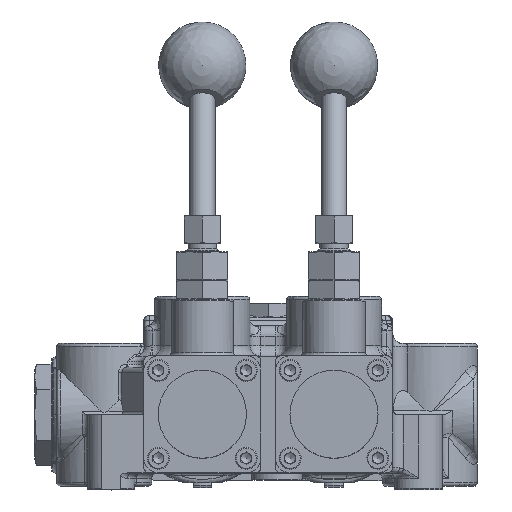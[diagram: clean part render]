
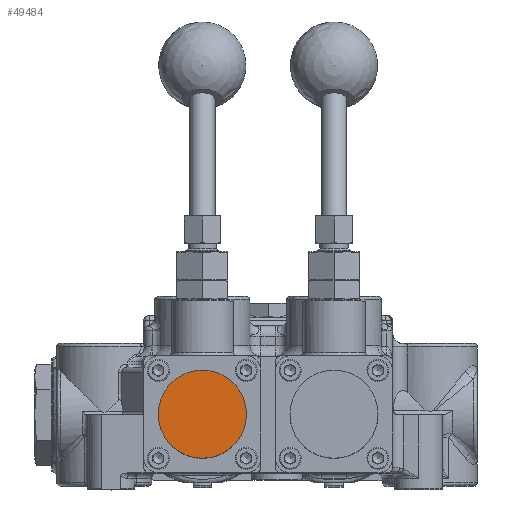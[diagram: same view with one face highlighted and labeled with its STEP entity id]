
A CAD part, top view. The second image highlights one B-rep face of the part: STEP entity #49484.
In plain terms, the highlighted planar face has unit normal (0, 0, 1).
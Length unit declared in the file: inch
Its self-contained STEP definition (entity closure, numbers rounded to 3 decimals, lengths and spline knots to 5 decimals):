
#49468=CARTESIAN_POINT('',(-2.25,0.,9.17));
#49469=DIRECTION('',(0.0,0.0,-1.0));
#49470=DIRECTION('',(0.0,-1.0,0.0));
#49471=AXIS2_PLACEMENT_3D('',#49468,#49469,#49470);
#49472=PLANE('',#49471);
#49473=CARTESIAN_POINT('',(-2.25,0.753,9.17));
#49474=VERTEX_POINT('',#49473);
#49475=CARTESIAN_POINT('',(-2.25,0.,9.17));
#49476=DIRECTION('',(0.0,0.0,-1.0));
#49477=DIRECTION('',(0.0,-1.0,0.0));
#49478=AXIS2_PLACEMENT_3D('',#49475,#49476,#49477);
#49479=CIRCLE('',#49478,0.753);
#49480=EDGE_CURVE('',#49474,#49474,#49479,.T.);
#49481=ORIENTED_EDGE('',*,*,#49480,.F.);
#49482=EDGE_LOOP('',(#49481));
#49483=FACE_OUTER_BOUND('',#49482,.T.);
#49484=ADVANCED_FACE('',(#49483),#49472,.F.);
